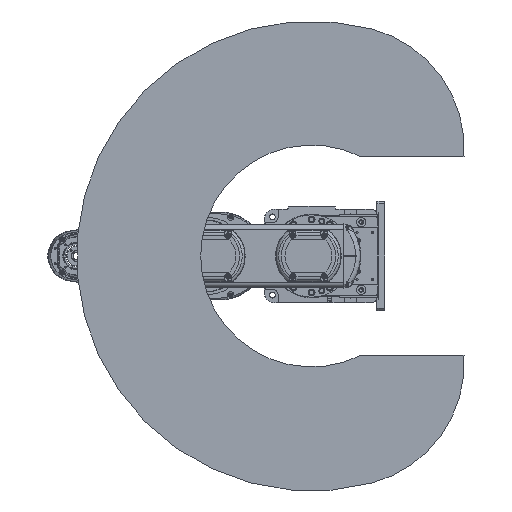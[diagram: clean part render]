
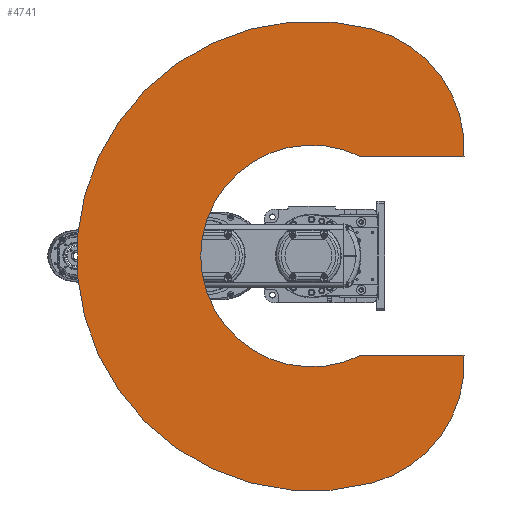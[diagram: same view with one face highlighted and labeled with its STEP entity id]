
A CAD part, front view. The second image highlights one B-rep face of the part: STEP entity #4741.
In plain terms, the highlighted planar face has unit normal (0, -1, 0).
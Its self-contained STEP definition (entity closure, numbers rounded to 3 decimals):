
#4741 = ADVANCED_FACE( '', ( #11489 ), #11490, .F. );
#11489 = FACE_OUTER_BOUND( '', #21058, .T. );
#11490 = PLANE( '', #21059 );
#21058 = EDGE_LOOP( '', ( #35422, #35423, #35424, #35425, #35426, #35427 ) );
#21059 = AXIS2_PLACEMENT_3D( '', #35428, #35429, #35430 );
#35422 = ORIENTED_EDGE( '', *, *, #52783, .T. );
#35423 = ORIENTED_EDGE( '', *, *, #54909, .F. );
#35424 = ORIENTED_EDGE( '', *, *, #53908, .F. );
#35425 = ORIENTED_EDGE( '', *, *, #51215, .F. );
#35426 = ORIENTED_EDGE( '', *, *, #53314, .T. );
#35427 = ORIENTED_EDGE( '', *, *, #54910, .F. );
#35428 = CARTESIAN_POINT( '', ( 102.614, 0., 27.495 ) );
#35429 = DIRECTION( '', ( 0., 1., 0. ) );
#35430 = DIRECTION( '', ( 0., 0., 1. ) );
#51215 = EDGE_CURVE( '', #60230, #60233, #60234, .T. );
#52783 = EDGE_CURVE( '', #62940, #62938, #62941, .T. );
#53314 = EDGE_CURVE( '', #60230, #63818, #63820, .T. );
#53908 = EDGE_CURVE( '', #60233, #64785, #64786, .T. );
#54909 = EDGE_CURVE( '', #64785, #62938, #66359, .T. );
#54910 = EDGE_CURVE( '', #62940, #63818, #66360, .F. );
#60230 = VERTEX_POINT( '', #73492 );
#60233 = VERTEX_POINT( '', #73496 );
#60234 = CIRCLE( '', #73497, 237.533 );
#62938 = VERTEX_POINT( '', #78590 );
#62940 = VERTEX_POINT( '', #78593 );
#62941 = LINE( '', #78594, #78595 );
#63818 = VERTEX_POINT( '', #80003 );
#63820 = LINE( '', #80006, #80007 );
#64785 = VERTEX_POINT( '', #81507 );
#64786 = CIRCLE( '', #81508, 450. );
#66359 = CIRCLE( '', #84073, 237.533 );
#66360 = CIRCLE( '', #84074, 212.47 );
#73492 = CARTESIAN_POINT( '', ( 190., 0., 292.035 ) );
#73496 = CARTESIAN_POINT( '', ( 434.667, 0., 116.469 ) );
#73497 = AXIS2_PLACEMENT_3D( '', #94596, #94597, #94598 );
#78590 = CARTESIAN_POINT( '', ( -190., 0., 292.035 ) );
#78593 = CARTESIAN_POINT( '', ( -190., 0., 95.097 ) );
#78594 = CARTESIAN_POINT( '', ( -190., 0., 0. ) );
#78595 = VECTOR( '', #96485, 1000. );
#80003 = CARTESIAN_POINT( '', ( 190., 0., 95.097 ) );
#80006 = CARTESIAN_POINT( '', ( 190., 0., 400. ) );
#80007 = VECTOR( '', #97154, 1000. );
#81507 = CARTESIAN_POINT( '', ( -434.667, 0., 116.469 ) );
#81508 = AXIS2_PLACEMENT_3D( '', #97928, #97929, #97930 );
#84073 = AXIS2_PLACEMENT_3D( '', #99160, #99161, #99162 );
#84074 = AXIS2_PLACEMENT_3D( '', #99163, #99164, #99165 );
#94596 = CARTESIAN_POINT( '', ( 205.228, 0., 54.991 ) );
#94597 = DIRECTION( '', ( 0., 1., 0. ) );
#94598 = DIRECTION( '', ( 1., 0., 0. ) );
#96485 = DIRECTION( '', ( 0., 0., 1. ) );
#97154 = DIRECTION( '', ( 0., 0., -1. ) );
#97928 = CARTESIAN_POINT( '', ( 0., 0., 0. ) );
#97929 = DIRECTION( '', ( 0., 1., 0. ) );
#97930 = DIRECTION( '', ( 1., 0., 0. ) );
#99160 = CARTESIAN_POINT( '', ( -205.228, 0., 54.991 ) );
#99161 = DIRECTION( '', ( 0., 1., 0. ) );
#99162 = DIRECTION( '', ( 1., 0., 0. ) );
#99163 = CARTESIAN_POINT( '', ( 0., 0., 0. ) );
#99164 = DIRECTION( '', ( 0., 1., 0. ) );
#99165 = DIRECTION( '', ( 0., 0., 1. ) );
